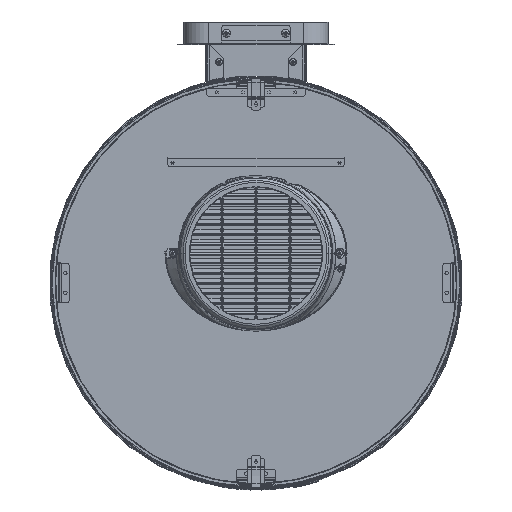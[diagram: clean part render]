
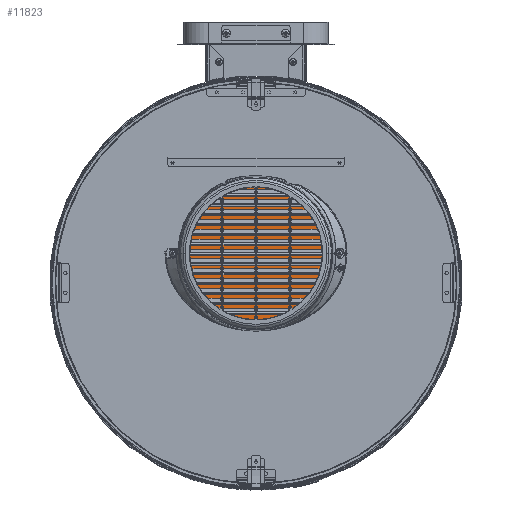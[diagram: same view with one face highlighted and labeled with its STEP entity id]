
A CAD part, top view. The second image highlights one B-rep face of the part: STEP entity #11823.
In plain terms, the highlighted planar face has unit normal (0, 0, 1) as drawn and (0, -1, 0) by its records, which use the part's own axes.
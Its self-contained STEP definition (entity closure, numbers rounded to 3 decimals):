
#406=TRIMMED_CURVE($,#4012,(#126017),(#126018),.T.,.CARTESIAN.);
#408=TRIMMED_CURVE($,#4014,(#126023),(#126024),.T.,.CARTESIAN.);
#410=TRIMMED_CURVE($,#4016,(#126043),(#126044),.T.,.CARTESIAN.);
#412=TRIMMED_CURVE($,#4018,(#126053),(#126054),.T.,.CARTESIAN.);
#414=TRIMMED_CURVE($,#4020,(#126063),(#126064),.T.,.CARTESIAN.);
#416=TRIMMED_CURVE($,#4022,(#126071),(#126072),.T.,.CARTESIAN.);
#4012=CIRCLE('',#98615,1.);
#4014=CIRCLE('',#98617,1.);
#4016=CIRCLE('',#98619,0.5);
#4018=CIRCLE('',#98621,0.5);
#4020=CIRCLE('',#98623,0.5);
#4022=CIRCLE('',#98625,0.5);
#8684=PLANE('',#98421);
#11823=ADVANCED_FACE('',(#17891,#17002),#8684,.T.);
#17002=FACE_BOUND('',#23506,.T.);
#17891=FACE_OUTER_BOUND('',#23505,.T.);
#23505=EDGE_LOOP('',(#31308,#31309,#31310,#31311,#31312,#31313,#31314,#31315));
#23506=EDGE_LOOP('',(#31316,#31317,#31318,#31319,#31320,#31321));
#31308=ORIENTED_EDGE('',*,*,#59713,.F.);
#31309=ORIENTED_EDGE('',*,*,#59697,.F.);
#31310=ORIENTED_EDGE('',*,*,#59710,.F.);
#31311=ORIENTED_EDGE('',*,*,#59696,.F.);
#31312=ORIENTED_EDGE('',*,*,#59706,.F.);
#31313=ORIENTED_EDGE('',*,*,#59695,.F.);
#31314=ORIENTED_EDGE('',*,*,#59702,.F.);
#31315=ORIENTED_EDGE('',*,*,#59694,.F.);
#31316=ORIENTED_EDGE('',*,*,#59546,.F.);
#31317=ORIENTED_EDGE('',*,*,#59540,.F.);
#31318=ORIENTED_EDGE('',*,*,#59537,.F.);
#31319=ORIENTED_EDGE('',*,*,#59693,.F.);
#31320=ORIENTED_EDGE('',*,*,#59528,.F.);
#31321=ORIENTED_EDGE('',*,*,#59691,.F.);
#59528=EDGE_CURVE('',#85124,#85126,#74202,.T.);
#59537=EDGE_CURVE('',#85130,#85132,#74209,.T.);
#59540=EDGE_CURVE('',#85132,#85134,#74212,.T.);
#59546=EDGE_CURVE('',#85134,#85137,#74218,.T.);
#59691=EDGE_CURVE('',#85137,#85124,#406,.T.);
#59693=EDGE_CURVE('',#85126,#85130,#408,.T.);
#59694=EDGE_CURVE('',#85223,#85224,#74262,.T.);
#59695=EDGE_CURVE('',#85225,#85226,#74263,.T.);
#59696=EDGE_CURVE('',#85227,#85228,#74264,.T.);
#59697=EDGE_CURVE('',#85229,#85230,#74265,.T.);
#59702=EDGE_CURVE('',#85224,#85225,#410,.T.);
#59706=EDGE_CURVE('',#85226,#85227,#412,.T.);
#59710=EDGE_CURVE('',#85228,#85229,#414,.T.);
#59713=EDGE_CURVE('',#85230,#85223,#416,.T.);
#74202=B_SPLINE_CURVE_WITH_KNOTS('',1,(#125559,#125560),.UNSPECIFIED.,.F.,
 .F.,(2,2),(-31.,0.),.UNSPECIFIED.);
#74209=B_SPLINE_CURVE_WITH_KNOTS('',1,(#125579,#125580),.UNSPECIFIED.,.F.,
 .F.,(2,2),(-42.,0.),.UNSPECIFIED.);
#74212=B_SPLINE_CURVE_WITH_KNOTS('',1,(#125585,#125586),.UNSPECIFIED.,.F.,
 .F.,(2,2),(-33.,0.),.UNSPECIFIED.);
#74218=B_SPLINE_CURVE_WITH_KNOTS('',1,(#125597,#125598),.UNSPECIFIED.,.F.,
 .F.,(2,2),(-42.,0.),.UNSPECIFIED.);
#74262=B_SPLINE_CURVE_WITH_KNOTS('',1,(#126025,#126026),.UNSPECIFIED.,.F.,
 .F.,(2,2),(0.,237.),.UNSPECIFIED.);
#74263=B_SPLINE_CURVE_WITH_KNOTS('',1,(#126027,#126028),.UNSPECIFIED.,.F.,
 .F.,(2,2),(0.,278.5),.UNSPECIFIED.);
#74264=B_SPLINE_CURVE_WITH_KNOTS('',1,(#126029,#126030),.UNSPECIFIED.,.F.,
 .F.,(2,2),(0.,237.),.UNSPECIFIED.);
#74265=B_SPLINE_CURVE_WITH_KNOTS('',1,(#126031,#126032),.UNSPECIFIED.,.F.,
 .F.,(2,2),(0.,278.5),.UNSPECIFIED.);
#85124=VERTEX_POINT('',#124360);
#85126=VERTEX_POINT('',#124362);
#85130=VERTEX_POINT('',#124366);
#85132=VERTEX_POINT('',#124368);
#85134=VERTEX_POINT('',#124370);
#85137=VERTEX_POINT('',#124373);
#85223=VERTEX_POINT('',#124459);
#85224=VERTEX_POINT('',#124460);
#85225=VERTEX_POINT('',#124461);
#85226=VERTEX_POINT('',#124462);
#85227=VERTEX_POINT('',#124463);
#85228=VERTEX_POINT('',#124464);
#85229=VERTEX_POINT('',#124465);
#85230=VERTEX_POINT('',#124466);
#98421=AXIS2_PLACEMENT_3D('',#124014,#106866,$);
#98615=AXIS2_PLACEMENT_3D($,#126016,#107245,#107246);
#98617=AXIS2_PLACEMENT_3D($,#126022,#107249,#107250);
#98619=AXIS2_PLACEMENT_3D($,#126042,#107253,#107254);
#98621=AXIS2_PLACEMENT_3D($,#126052,#107257,#107258);
#98623=AXIS2_PLACEMENT_3D($,#126062,#107261,#107262);
#98625=AXIS2_PLACEMENT_3D($,#126070,#107265,#107266);
#106866=DIRECTION('',(0.,-1.,0.));
#107245=DIRECTION('',(0.,-1.,0.));
#107246=DIRECTION('',(0.,0.,-1.));
#107249=DIRECTION('',(0.,-1.,0.));
#107250=DIRECTION('',(1.,0.,0.));
#107253=DIRECTION('',(0.,1.,0.));
#107254=DIRECTION('',(0.,0.,-1.));
#107257=DIRECTION('',(0.,1.,0.));
#107258=DIRECTION('',(-1.,0.,0.));
#107261=DIRECTION('',(0.,1.,0.));
#107262=DIRECTION('',(0.,0.,1.));
#107265=DIRECTION('',(0.,1.,0.));
#107266=DIRECTION('',(1.,0.,0.));
#124014=CARTESIAN_POINT('',(-143.314,-2.,168.214));
#124360=CARTESIAN_POINT('',(-74.7,-2.,-15.5));
#124362=CARTESIAN_POINT('',(-74.7,-2.,15.5));
#124366=CARTESIAN_POINT('',(-75.7,-2.,16.5));
#124368=CARTESIAN_POINT('',(-117.7,-2.,16.5));
#124370=CARTESIAN_POINT('',(-117.7,-2.,-16.5));
#124373=CARTESIAN_POINT('',(-75.7,-2.,-16.5));
#124459=CARTESIAN_POINT('',(118.5,-2.,-139.75));
#124460=CARTESIAN_POINT('',(-118.5,-2.,-139.75));
#124461=CARTESIAN_POINT('',(-119.,-2.,-139.25));
#124462=CARTESIAN_POINT('',(-119.,-2.,139.25));
#124463=CARTESIAN_POINT('',(-118.5,-2.,139.75));
#124464=CARTESIAN_POINT('',(118.5,-2.,139.75));
#124465=CARTESIAN_POINT('',(119.,-2.,139.25));
#124466=CARTESIAN_POINT('',(119.,-2.,-139.25));
#125559=CARTESIAN_POINT('',(-74.7,-2.,-15.5));
#125560=CARTESIAN_POINT('',(-74.7,-2.,15.5));
#125579=CARTESIAN_POINT('',(-75.7,-2.,16.5));
#125580=CARTESIAN_POINT('',(-117.7,-2.,16.5));
#125585=CARTESIAN_POINT('',(-117.7,-2.,16.5));
#125586=CARTESIAN_POINT('',(-117.7,-2.,-16.5));
#125597=CARTESIAN_POINT('',(-117.7,-2.,-16.5));
#125598=CARTESIAN_POINT('',(-75.7,-2.,-16.5));
#126016=CARTESIAN_POINT('',(-75.7,-2.,-15.5));
#126017=CARTESIAN_POINT('',(-75.7,-2.,-16.5));
#126018=CARTESIAN_POINT('',(-74.7,-2.,-15.5));
#126022=CARTESIAN_POINT('',(-75.7,-2.,15.5));
#126023=CARTESIAN_POINT('',(-74.7,-2.,15.5));
#126024=CARTESIAN_POINT('',(-75.7,-2.,16.5));
#126025=CARTESIAN_POINT('',(118.5,-2.,-139.75));
#126026=CARTESIAN_POINT('',(-118.5,-2.,-139.75));
#126027=CARTESIAN_POINT('',(-119.,-2.,-139.25));
#126028=CARTESIAN_POINT('',(-119.,-2.,139.25));
#126029=CARTESIAN_POINT('',(-118.5,-2.,139.75));
#126030=CARTESIAN_POINT('',(118.5,-2.,139.75));
#126031=CARTESIAN_POINT('',(119.,-2.,139.25));
#126032=CARTESIAN_POINT('',(119.,-2.,-139.25));
#126042=CARTESIAN_POINT('',(-118.5,-2.,-139.25));
#126043=CARTESIAN_POINT('',(-118.5,-2.,-139.75));
#126044=CARTESIAN_POINT('',(-119.,-2.,-139.25));
#126052=CARTESIAN_POINT('',(-118.5,-2.,139.25));
#126053=CARTESIAN_POINT('',(-119.,-2.,139.25));
#126054=CARTESIAN_POINT('',(-118.5,-2.,139.75));
#126062=CARTESIAN_POINT('',(118.5,-2.,139.25));
#126063=CARTESIAN_POINT('',(118.5,-2.,139.75));
#126064=CARTESIAN_POINT('',(119.,-2.,139.25));
#126070=CARTESIAN_POINT('',(118.5,-2.,-139.25));
#126071=CARTESIAN_POINT('',(119.,-2.,-139.25));
#126072=CARTESIAN_POINT('',(118.5,-2.,-139.75));
